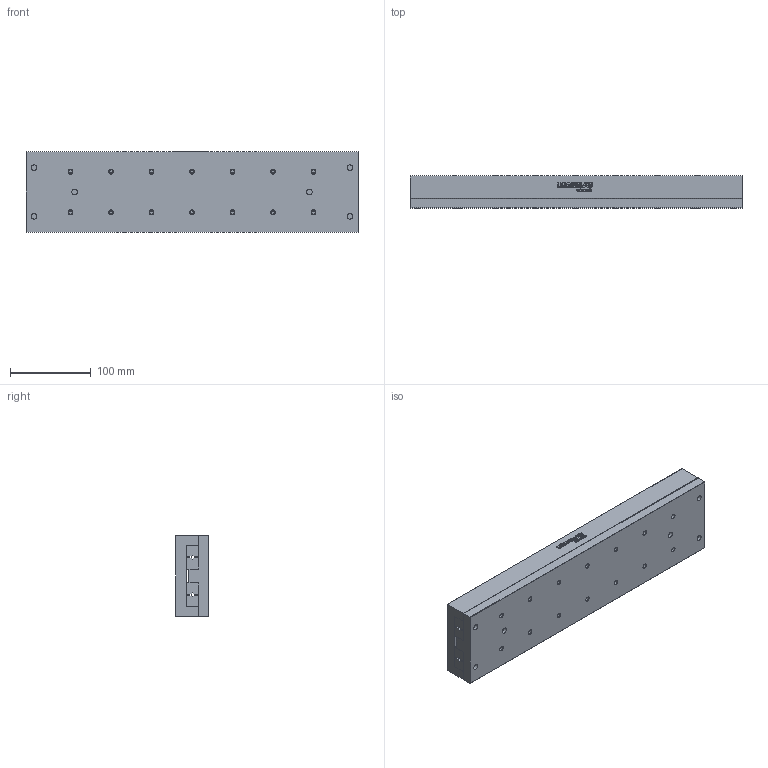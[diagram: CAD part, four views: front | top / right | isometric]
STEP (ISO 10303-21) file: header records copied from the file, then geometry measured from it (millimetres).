
FILE_DESCRIPTION(/* description */ ('STEP AP214'),/* implementation_level */ '2;1');
FILE_NAME(/* name */ 'NKL 6-410(0)',/* time_stamp */ '2025-04-24T11:41:29+02:00',/* author */ ('License CC BY-ND 4.0'),/* organization */ ('CADENAS'),/* preprocessor_version */ 'ST-DEVELOPER v19.3',/* originating_system */ 'PARTsolutions',/* authorisation */ ' ');
FILE_SCHEMA (('AUTOMOTIVE_DESIGN {1 0 10303 214 3 1 1}'));
Length unit declared in the file: millimetre
Products named in the file (3): NKL 6-410(0); NKL 6-410_1; NKL 6-410_2
Assembly tree (2 placements, depth 2):
  NKL 6-410(0)
    NKL 6-410_1
    NKL 6-410_2
Bounding box: 410 x 40 x 100 mm (x, y, z)
Volume: 1567802.3 mm3; surface area: 285420.7 mm2
Topology: 2 solids, 2 shells, 691 faces, 1920 edges, 1236 vertices
Faces by surface type: cylinder 332, plane 303, cone 56
Full cylindrical faces by diameter (mm): 4.917 x28, 7 x6, 15 x6
Entity records: 21645 total; most frequent: DIRECTION 3932, CARTESIAN_POINT 3690, ORIENTED_EDGE 3584, EDGE_CURVE 1792, AXIS2_PLACEMENT_3D 1446, VERTEX_POINT 1204, LINE 1040, VECTOR 1040
